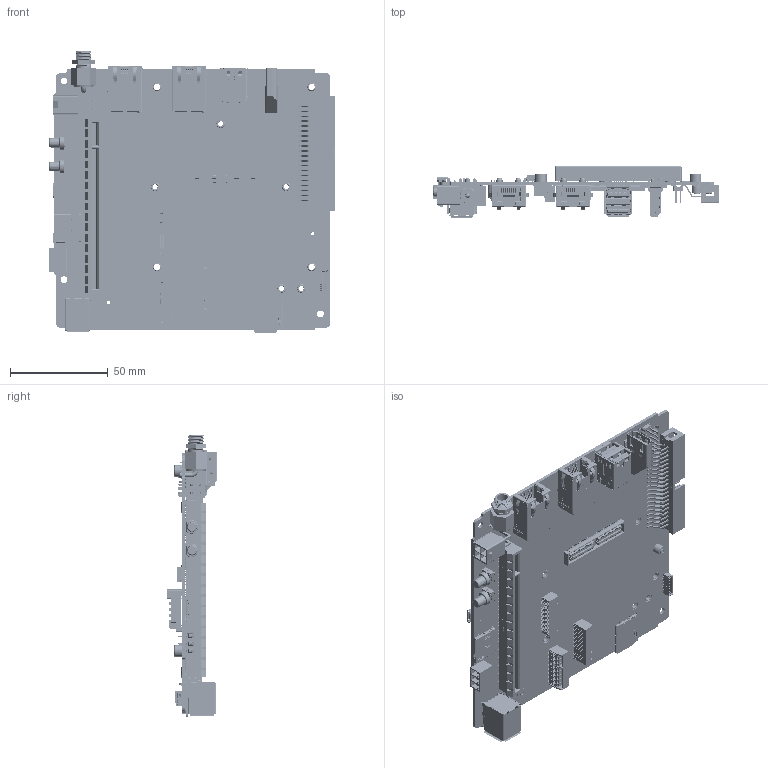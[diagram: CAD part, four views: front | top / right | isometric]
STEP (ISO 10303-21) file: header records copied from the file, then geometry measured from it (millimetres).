
FILE_DESCRIPTION((''),'2;1');
FILE_NAME('D315_MAIN_BOARD_ASSY_V-C_ASM','2026-04-13T10:49:18',('A004125'),(''),'CREO PARAMETRIC BY PTC INC, 2016390','CREO PARAMETRIC BY PTC INC, 2016390','');
FILE_SCHEMA(('CONFIG_CONTROL_DESIGN','SHAPE_APPEARANCE_LAYERS_GROUPS'));
Products named in the file (233): D315_MAIN_PCB_V-C; D315_MAIN_PCB_TOP_LIMIT_V-C; D315_MAIN_PCB_BTM_LIMIT_V-C; D315_MAIN_PCB_ASSY_V-C_ASM; 104AAAAAAACP_STANDOFF_L4; 080-1489-000_3_1_2; 066A50271AR7; 061AFG-MCBAP; 104AAAAAAAC3_SMT_NUT_M3; 066A50271APC; D315_MAIN_BOARD_TOP_CONN_V-C_ASM; S26_RJ_PCB_ASS_Y-1_S26-M1-47542; S26_RJ_PCB_ASS_Y-1_S26-M1-47546; LED2-1-SOLID1; S26_RJ_PCB_ASS_Y-1_S26-M1-47556; S26_RJ_PCB_ASS_Y-1_S26-M1-47559; KI-1-SOLI00; S26_RJ_PCB_ASS_Y-1_S26-M1-47581; S26_RJ_PCB_ASS_Y-1_S26-M1-47584; R26-S110-1-SOLID1; S26_RJ_PCB_ASS_Y-1_S26-M1-47589; S26_RJ_PCB_ASS_Y-1_S26-M1-47592; S26_RJ_PCB_ASS_Y-1_S26-M1-47594; S26_RJ_PCB_ASS_Y-1_S26-M1-47602; S26_RJ_PCB_ASS_Y-1_S26-M1-47604; S26_RJ_PCB_ASS_Y-1_S26-M1-47609; S26_RJ_PCB_ASS_Y-1_S26-M1-47611; S26_RJ_PCB_ASS_Y-1_S26-M1-47614; S26_RJ_PCB_ASS_Y-1_S26-M1-47623; S26_RJ_PCB_ASS_Y-1_S26-M1-47630; LED2-2-SOLID1; S26_RJ_PCB_ASS_Y-1_S26-M1-47639; S26_RJ_PCB_ASS_Y-1_S26-M1-47641; S26_RJ_PCB_ASS_Y-1_S26-M1-47661; R26-P110-1-SOLID1; S26_RJ_PCB_ASS_Y-1_S26-M1-47666; S26_RJ_PCB_ASS_Y-1_S26-M1-47669; S26_RJ_PCB_ASS_Y-1_S26-M1-47677; S26_RJ_PCB_ASS_Y-1_S26-M1-47684; S26-ZZ-0084-0086_ASM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
Assembly tree (241 placements, depth 4):
  D315_MAIN_BOARD_ASSY_V-C_ASM
    D315_MAIN_PCB_ASSY_V-C_ASM
      D315_MAIN_PCB_V-C
      D315_MAIN_PCB_TOP_LIMIT_V-C
      D315_MAIN_PCB_BTM_LIMIT_V-C
    D315_MAIN_BOARD_TOP_CONN_V-C_ASM
      104AAAAAAACP_STANDOFF_L4  x4
      080-1489-000_3_1_2
      066A50271AR7
      061AFG-MCBAP
      104AAAAAAAC3_SMT_NUT_M3  x5
      066A50271APC
    D315_MAIN_BOARD_BTM_CONN_V-C_ASM
      S26-ZZ-0084-0086_ASM  x2
        S26_RJ_PCB_ASS_Y-1_S26-M1-47542
        S26_RJ_PCB_ASS_Y-1_S26-M1-47546
        LED2-1-SOLID1
        S26_RJ_PCB_ASS_Y-1_S26-M1-47556
        S26_RJ_PCB_ASS_Y-1_S26-M1-47559
        KI-1-SOLI00
        S26_RJ_PCB_ASS_Y-1_S26-M1-47581
        S26_RJ_PCB_ASS_Y-1_S26-M1-47584
        R26-S110-1-SOLID1
        S26_RJ_PCB_ASS_Y-1_S26-M1-47589
        S26_RJ_PCB_ASS_Y-1_S26-M1-47592
        S26_RJ_PCB_ASS_Y-1_S26-M1-47594
        S26_RJ_PCB_ASS_Y-1_S26-M1-47602
        S26_RJ_PCB_ASS_Y-1_S26-M1-47604
        S26_RJ_PCB_ASS_Y-1_S26-M1-47609
        S26_RJ_PCB_ASS_Y-1_S26-M1-47611
        S26_RJ_PCB_ASS_Y-1_S26-M1-47614
        S26_RJ_PCB_ASS_Y-1_S26-M1-47623
        S26_RJ_PCB_ASS_Y-1_S26-M1-47630
        LED2-2-SOLID1
        S26_RJ_PCB_ASS_Y-1_S26-M1-47639
        S26_RJ_PCB_ASS_Y-1_S26-M1-47641
        S26_RJ_PCB_ASS_Y-1_S26-M1-47661
        R26-P110-1-SOLID1
        S26_RJ_PCB_ASS_Y-1_S26-M1-47666
        S26_RJ_PCB_ASS_Y-1_S26-M1-47669
        S26_RJ_PCB_ASS_Y-1_S26-M1-47677
        S26_RJ_PCB_ASS_Y-1_S26-M1-47684
      061ADCD-0BBK
      061AHM-FVBB6
      061ACU3B-BBD
      066AFPWD-ASP
      0402LS67AAF6_F7  x2
      062AME030AMX
      066AQSH-0ARR
      062AFG-00AM6
      _FG-0271AAAG06A
      2EF582-DA9D0_WITH_RIB_TO_CUST_1_ASM
        052-0109-2695_0902-118-SOLID1_3
        052-0109-2695_0902-86-SOLID1_33
        052-0109-2695_0902-130-SOLID1_3
        052-0109-2695_0902-110-SOLID1_3
        052-0109-2695_0902-87-SOLID1_33
        052-0109-2695_0902-143-SOLID1_3
        052-0109-2695_0902-129-SOLID1_3
        052-0109-2695_0902-171-SOLID1_3
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Bounding box: 145.8 x 26 x 143.6 mm (x, y, z)
Volume: 50967 mm3; surface area: 98580.8 mm2
Topology: 259 solids, 367 shells, 39444 faces, 113159 edges, 73744 vertices
Faces by surface type: plane 31915, cylinder 6884, bspline 315, torus 113, cone 109, extrusion 56, sphere 52
Entity records: 1296282 total; most frequent: CARTESIAN_POINT 241281, ORIENTED_EDGE 209728, DIRECTION 191822, EDGE_CURVE 105573, VECTOR 88900, LINE 88844, VERTEX_POINT 68982, AXIS2_PLACEMENT_3D 51461
